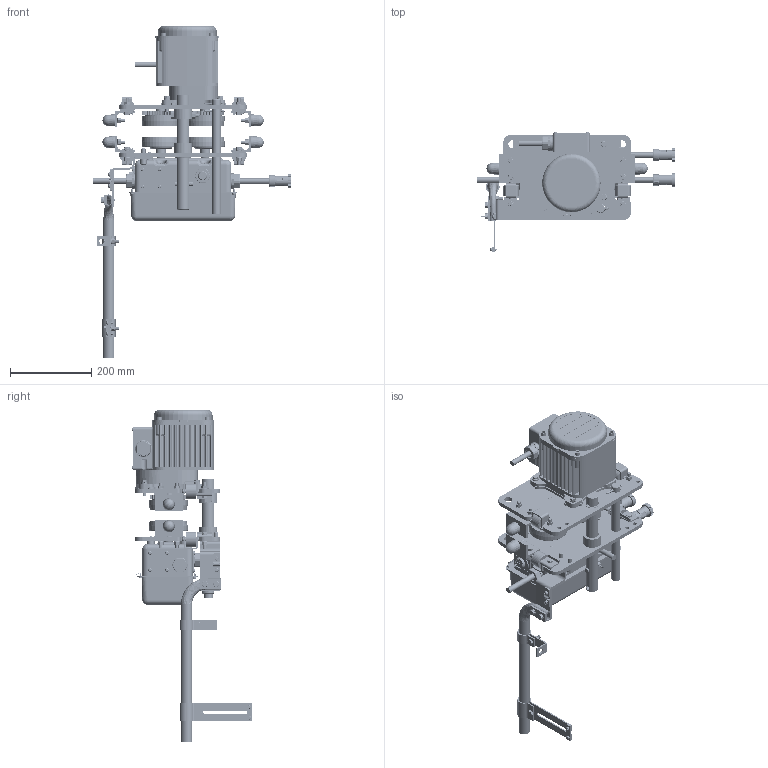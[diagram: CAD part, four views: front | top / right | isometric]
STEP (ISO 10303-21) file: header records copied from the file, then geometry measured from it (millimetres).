
FILE_DESCRIPTION (( 'STEP AP214' ), '1' );
FILE_NAME ('MR2005SD.STEP', '2026-08-10T13:37:24', ( '' ), ( '' ), 'SwSTEP 2.0', 'SolidWorks 2026', '' );
FILE_SCHEMA (( 'AUTOMOTIVE_DESIGN' ));
Length unit declared in the file: inch
Products named in the file (86): 9012712_9012712; MR1DS9248; 14-4 (MR2); 6302Z BEARING; MS1101010; ES558003; 9047115_9047115; MR1DS1493; 9012513; MSF115010_MSF115010; E6F151003; 9091295_9091295; 9009432_9009432; M6SE010S9102; ECP5924AB1; 9047242_9047242; ECP6916AA; M6SE010S9101; MR1DS1211; MR1DS1491; MS006010; MR1DS9493; MR1DS9325; 16-6P (MR2); MR1DS9218; MR2005SD; MR1DS9421; MR1DS9492; 6077801; E6L614010S; MS161010; 16-6 (MR2); MR1DS9131_MR1DS9131; MR1DS5201; ECP5924AA1; MS1102010; 9009446_9009446; 90912134; MR1DS9481; MR2SHM10S9A8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
Assembly tree (215 placements, depth 5):
  MR2005SD
    MR1DS5201
      MR1DS9201
      MR1DS9203  x2
      M6FE010S9113
    MR1DS5202
      MR1DS9202
      MR1DS9203  x2
      M6FE010S9114
    MSF115010_MSF115010
    MR1DS9634  x4
    9093330_9093330  x16
    9012711_9012711  x20
    9093424_9093424  x16
    MR1DS9631  x4
    MS006010  x4
    MR1DS1211_Reversed  x2
      MR1DS1211
      MR1DS9218
    MR1DS1211  x2
      MR1DS1211
      MR1DS9218
    MS1101010  x2
      M6SE010S9101
      6302Z BEARING
      9047242_9047242
    MS1102010  x2
      M6SE010S9102
      6302Z BEARING
      9047242_9047242
    MR1DS9131_MR1DS9131
    9009446_9009446  x2
    MS161010
    T6G156020
    9009432_9009432
    T3P154020_T3P154020
    9009414-5_9009414-5
    9047115_9047115  x4
    MS104010  x4
    6077801
      MR1DS93112
      MR1DS9324
      MR1DS9325
      MR1DS1301
      90912134  x4
      MS554010  x4
    9012513  x4
    MR1DS9248
    70131XX_7013101
      MR1DS9411
      MR1DS9401_1 - 8 TON & 10 L TON
      MR1DS9421
      MS554010  x12
      MR2DI2811
        ECP5924AH
        MS527010
        MR2DI1811
        ES558003  x4
      MS517010  x4
      MS551010  x4
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Bounding box: 488.85 x 294.68 x 816.73 mm (x, y, z)
Volume: 5545509.8 mm3; surface area: 1851998 mm2
Topology: 244 solids, 260 shells, 9561 faces, 25122 edges, 16387 vertices
Faces by surface type: plane 4571, cylinder 2718, cone 1364, torus 444, bspline 440, sphere 24
Entity records: 172283 total; most frequent: CARTESIAN_POINT 64950, ORIENTED_EDGE 21842, DIRECTION 20797, EDGE_CURVE 10923, AXIS2_PLACEMENT_3D 7649, VERTEX_POINT 7360, LINE 5499, VECTOR 5499
